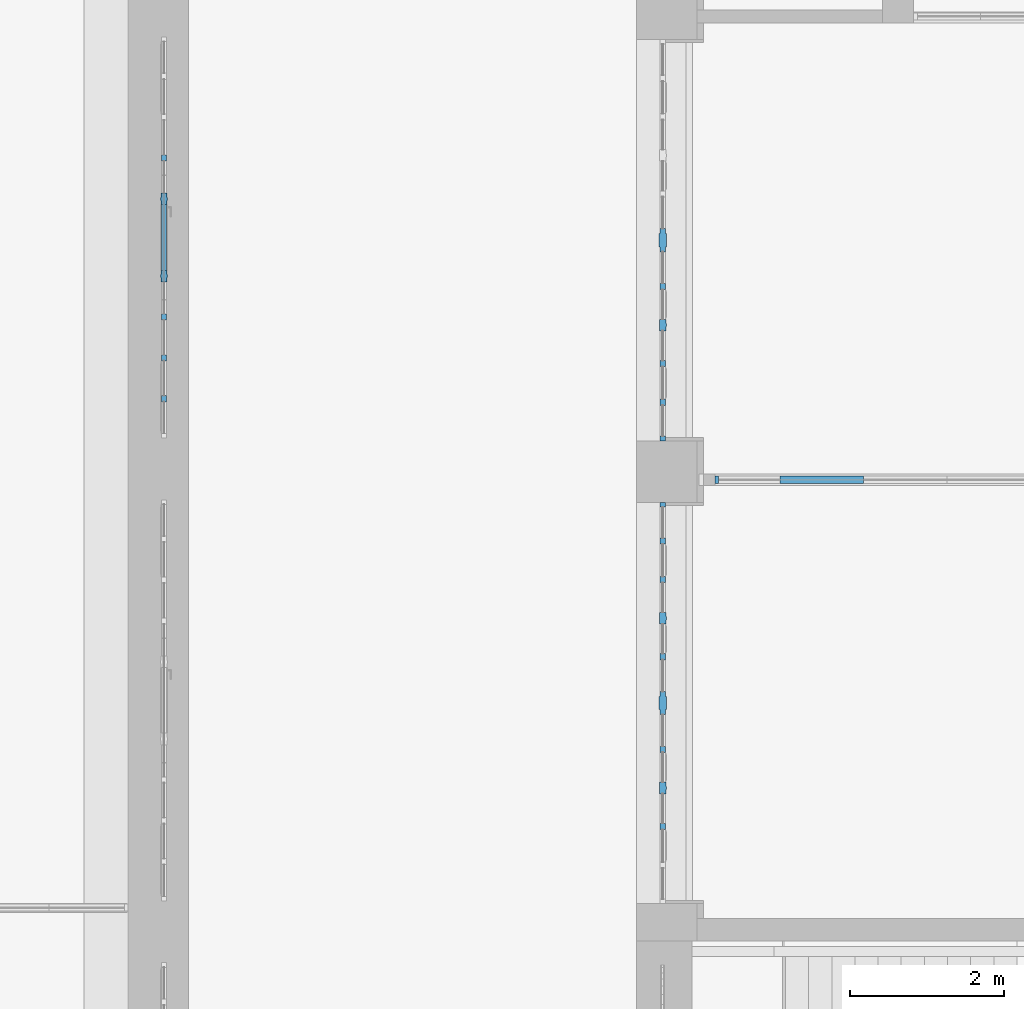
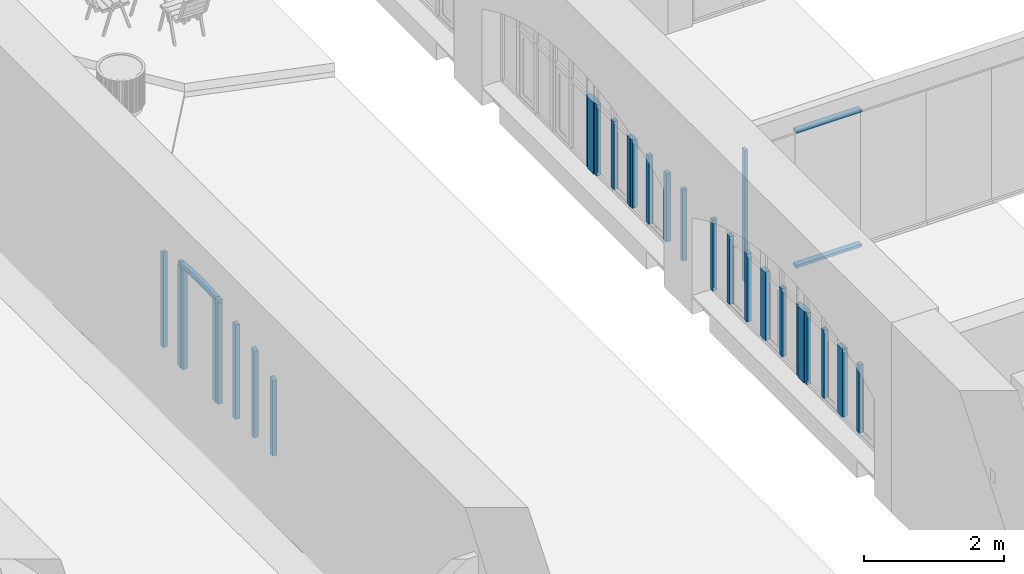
# One storey, part 11 of 88: 26 members, 4 elements without a shape of their own.
"""IFC2X3 building model written with IfcOpenShell, lengths in millimetres."""

from ifc_helpers import new_model, entity, si_unit, converted_unit, derived_unit, direction, frame, frame_2d, origin, origin_2d_with_axis, place, context, subcontext, project, spatial, polyline, circle_curve, parameter, trimmed, segment, composite_curve, rectangle, outline, extrude, source, transform, mapped, material, type_object, type_shapes, element, aggregate, save


model = new_model("IFC2X3")

# Units and contexts
model_context = context("Model", 3, precision=0.01, world=origin(), true_north=direction((6.123031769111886e-17, 1.0)))
body_context = subcontext(model_context, "Body", "Model", "MODEL_VIEW")
ifc_project = project(units=[si_unit("LENGTHUNIT", "METRE", prefix="MILLI"), si_unit("AREAUNIT", "SQUARE_METRE"), si_unit("VOLUMEUNIT", "CUBIC_METRE"), converted_unit("PLANEANGLEUNIT", "DEGREE", entity("IfcPlaneAngleMeasure", 0.017453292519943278), si_unit("PLANEANGLEUNIT", "RADIAN"), dimensions=[0, 0, 0, 0, 0, 0, 0]), si_unit("MASSUNIT", "GRAM", prefix="KILO"), derived_unit("MASSDENSITYUNIT", [(si_unit("MASSUNIT", "GRAM", prefix="KILO"), 1), (si_unit("LENGTHUNIT", "METRE"), -3)]), derived_unit("IONCONCENTRATIONUNIT", [(si_unit("MASSUNIT", "GRAM", prefix="KILO"), 1), (si_unit("LENGTHUNIT", "METRE"), -3)]), derived_unit("MOMENTOFINERTIAUNIT", [(si_unit("LENGTHUNIT", "METRE"), 4)]), si_unit("TIMEUNIT", "SECOND"), si_unit("FREQUENCYUNIT", "HERTZ"), si_unit("THERMODYNAMICTEMPERATUREUNIT", "DEGREE_CELSIUS"), derived_unit("THERMALTRANSMITTANCEUNIT", [(si_unit("MASSUNIT", "GRAM", prefix="KILO"), 1), (si_unit("THERMODYNAMICTEMPERATUREUNIT", "KELVIN"), -1), (si_unit("TIMEUNIT", "SECOND"), -3)]), derived_unit("THERMALCONDUCTANCEUNIT", [(si_unit("MASSUNIT", "GRAM", prefix="KILO"), 1), (si_unit("THERMODYNAMICTEMPERATUREUNIT", "KELVIN"), -1), (si_unit("TIMEUNIT", "SECOND"), -3), (si_unit("LENGTHUNIT", "METRE"), 1)]), derived_unit("VOLUMETRICFLOWRATEUNIT", [(si_unit("LENGTHUNIT", "METRE", prefix="DECI"), 3), (si_unit("TIMEUNIT", "SECOND"), -1)]), derived_unit("MASSFLOWRATEUNIT", [(si_unit("MASSUNIT", "GRAM", prefix="KILO"), 1), (si_unit("TIMEUNIT", "SECOND"), -1)]), derived_unit("ROTATIONALFREQUENCYUNIT", [(si_unit("TIMEUNIT", "SECOND"), -1)]), si_unit("ELECTRICCURRENTUNIT", "AMPERE"), si_unit("ELECTRICVOLTAGEUNIT", "VOLT"), si_unit("POWERUNIT", "WATT"), si_unit("FORCEUNIT", "NEWTON", prefix="KILO"), si_unit("ILLUMINANCEUNIT", "LUX"), si_unit("LUMINOUSFLUXUNIT", "LUMEN"), si_unit("LUMINOUSINTENSITYUNIT", "CANDELA"), si_unit("ENERGYUNIT", "JOULE"), derived_unit("USERDEFINED", [(si_unit("MASSUNIT", "GRAM", prefix="KILO"), -1), (si_unit("LENGTHUNIT", "METRE"), -2), (si_unit("TIMEUNIT", "SECOND"), 3), (si_unit("LUMINOUSFLUXUNIT", "LUMEN"), 1)]), derived_unit("USERDEFINED", [(si_unit("MASSUNIT", "GRAM", prefix="KILO"), 1), (si_unit("TIMEUNIT", "SECOND"), -3), (si_unit("LENGTHUNIT", "METRE"), 3), (si_unit("ELECTRICCURRENTUNIT", "AMPERE"), -2)]), derived_unit("SOUNDPOWERUNIT", [(si_unit("MASSUNIT", "GRAM", prefix="KILO"), 1), (si_unit("TIMEUNIT", "SECOND"), -3), (si_unit("LENGTHUNIT", "METRE"), 2)]), derived_unit("SOUNDPRESSUREUNIT", [(si_unit("MASSUNIT", "GRAM", prefix="KILO"), 1), (si_unit("LENGTHUNIT", "METRE"), -1), (si_unit("TIMEUNIT", "SECOND"), -2)]), derived_unit("LINEARVELOCITYUNIT", [(si_unit("LENGTHUNIT", "METRE"), 1), (si_unit("TIMEUNIT", "SECOND"), -1)]), si_unit("PRESSUREUNIT", "PASCAL"), derived_unit("USERDEFINED", [(si_unit("MASSUNIT", "GRAM", prefix="KILO"), 1), (si_unit("LENGTHUNIT", "METRE"), -2), (si_unit("TIMEUNIT", "SECOND"), -2)]), derived_unit("LINEARFORCEUNIT", [(si_unit("MASSUNIT", "GRAM", prefix="KILO"), 1), (si_unit("TIMEUNIT", "SECOND"), -2)]), derived_unit("PLANARFORCEUNIT", [(si_unit("MASSUNIT", "GRAM", prefix="KILO"), 1), (si_unit("LENGTHUNIT", "METRE"), -1), (si_unit("TIMEUNIT", "SECOND"), -2)]), derived_unit("SPECIFICHEATCAPACITYUNIT", [(si_unit("THERMODYNAMICTEMPERATUREUNIT", "KELVIN"), -1), (si_unit("LENGTHUNIT", "METRE"), 2), (si_unit("TIMEUNIT", "SECOND"), -2)]), derived_unit("HEATFLUXDENSITYUNIT", [(si_unit("MASSUNIT", "GRAM", prefix="KILO"), 1), (si_unit("TIMEUNIT", "SECOND"), -3)]), derived_unit("HEATINGVALUEUNIT", [(si_unit("LENGTHUNIT", "METRE"), 2), (si_unit("TIMEUNIT", "SECOND"), -2)]), derived_unit("VAPORPERMEABILITYUNIT", [(si_unit("LENGTHUNIT", "METRE"), -1), (si_unit("TIMEUNIT", "SECOND"), 1)]), derived_unit("DYNAMICVISCOSITYUNIT", [(si_unit("MASSUNIT", "GRAM", prefix="KILO"), 1), (si_unit("TIMEUNIT", "SECOND"), -1), (si_unit("LENGTHUNIT", "METRE"), -1)]), derived_unit("THERMALEXPANSIONCOEFFICIENTUNIT", [(si_unit("THERMODYNAMICTEMPERATUREUNIT", "KELVIN"), -1)]), derived_unit("MODULUSOFELASTICITYUNIT", [(si_unit("MASSUNIT", "GRAM", prefix="KILO"), 1), (si_unit("LENGTHUNIT", "METRE"), -1), (si_unit("TIMEUNIT", "SECOND"), -2)]), derived_unit("ISOTHERMALMOISTURECAPACITYUNIT", [(si_unit("MASSUNIT", "GRAM", prefix="KILO"), -1), (si_unit("LENGTHUNIT", "METRE"), 3)]), derived_unit("MOISTUREDIFFUSIVITYUNIT", [(si_unit("TIMEUNIT", "SECOND"), -1), (si_unit("LENGTHUNIT", "METRE"), 2)]), derived_unit("MASSPERLENGTHUNIT", [(si_unit("MASSUNIT", "GRAM", prefix="KILO"), 1), (si_unit("LENGTHUNIT", "METRE"), -1)]), derived_unit("THERMALRESISTANCEUNIT", [(si_unit("MASSUNIT", "GRAM", prefix="KILO"), -1), (si_unit("TIMEUNIT", "SECOND"), 3), (si_unit("THERMODYNAMICTEMPERATUREUNIT", "KELVIN"), 1)]), derived_unit("ACCELERATIONUNIT", [(si_unit("LENGTHUNIT", "METRE"), 1), (si_unit("TIMEUNIT", "SECOND"), -2)]), derived_unit("ANGULARVELOCITYUNIT", [(si_unit("TIMEUNIT", "SECOND"), -1), (si_unit("PLANEANGLEUNIT", "RADIAN"), 1)]), derived_unit("LINEARSTIFFNESSUNIT", [(si_unit("MASSUNIT", "GRAM", prefix="KILO"), 1), (si_unit("TIMEUNIT", "SECOND"), -2)]), derived_unit("WARPINGCONSTANTUNIT", [(si_unit("LENGTHUNIT", "METRE"), 6)]), derived_unit("LINEARMOMENTUNIT", [(si_unit("MASSUNIT", "GRAM", prefix="KILO"), 1), (si_unit("LENGTHUNIT", "METRE"), 1), (si_unit("TIMEUNIT", "SECOND"), -2)]), derived_unit("TORQUEUNIT", [(si_unit("MASSUNIT", "GRAM", prefix="KILO"), 1), (si_unit("LENGTHUNIT", "METRE"), 2), (si_unit("TIMEUNIT", "SECOND"), -2)])], contexts=[model_context])

# Site, building, storey
site_placement = place(None, origin())
site = spatial("IfcSite", under=ifc_project, at=site_placement, Name="Default", CompositionType="ELEMENT")
building_placement = place(site_placement, origin())
building = spatial("IfcBuilding", under=site, at=building_placement, Name="Eesti Rahvusraamatukogu hoone renoveerimise projekteerimistööd", CompositionType="ELEMENT")
storey_placement = place(building_placement, origin())
storey = spatial("IfcBuildingStorey", under=building, at=storey_placement, Name="1. korrus", CompositionType="ELEMENT", Elevation=0.0)

# Curtain wall, member
curtain_wall_type_1 = type_object("IfcCurtainWallType", Name="Curtain Wall:VLS Klaasvahesein profiilita 38db", PredefinedType="NOTDEFINED")
curtain_wall_1_placement = place(storey_placement, origin())
curtain_wall_1 = element("IfcCurtainWall", 1, at=curtain_wall_1_placement, inside=storey, type_object=curtain_wall_type_1, Name="Curtain Wall:VLS Klaasvahesein profiilita 38db", ObjectType="Curtain Wall:VLS Klaasvahesein profiilita 38db")
ifc_material_1 = material(Name="Aluminum")
member_type_1 = type_object("IfcMemberType", Name="Rectangular Mullion:50mm x 92mm", PredefinedType="MULLION", material=ifc_material_1)
shared_shape_1 = source(origin(), body_context, "Body", "SweptSolid", [
    extrude(rectangle(XDim=50.0, YDim=92.0, at=origin_2d_with_axis()), frame((-25.0, 0.0, -2300.0), z_axis=(0.0, 0.0, 1.0), x_axis=(-1.0, 0.0, 0.0)), (0.0, 0.0, 1.0), 2300.0),
])
type_shapes(member_type_1, [shared_shape_1])
member_1_placement = place(curtain_wall_1_placement, frame((-35765.5000000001, 36284.74185018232, 4000.0), z_axis=(0.0, 0.0, 1.0), x_axis=(-1.0, 0.0, 0.0)))
member_1 = element("IfcMember", 2, at=member_1_placement, type_object=member_type_1, material=ifc_material_1, Name="Rectangular Mullion:50mm x 92mm", ObjectType="Rectangular Mullion:50mm x 92mm", context=body_context, shape_type="MappedRepresentation", body=[
    mapped(shared_shape_1, transform((0.0, 0.0, 0.0), scale=1.0)),
])

# Curtain wall, members
curtain_wall_type_2 = type_object("IfcCurtainWallType", Name="Curtain Wall:Ak-02", PredefinedType="NOTDEFINED")
curtain_wall_2_placement = place(storey_placement, origin())
curtain_wall_2 = element("IfcCurtainWall", 3, at=curtain_wall_2_placement, inside=storey, type_object=curtain_wall_type_2, Name="Curtain Wall:Ak-02", ObjectType="Curtain Wall:Ak-02")
ifc_material_2 = material(Name="LUMION_dark steel window frames")
member_type_2 = type_object("IfcMemberType", Name="Rectangular Mullion:NEW 80x70mm", PredefinedType="MULLION", material=ifc_material_2)
shared_shape_2 = source(origin(), body_context, "Body", "SweptSolid", [
    extrude(rectangle(XDim=80.0, YDim=70.0, at=frame_2d((0.0, 3.552713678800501e-15), x_axis=(1.0, 0.0))), frame((0.0, 0.0, -1190.0), z_axis=(0.0, 0.0, 1.0), x_axis=(-1.0, 0.0, 0.0)), (0.0, 0.0, 1.0), 1189.9999999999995),
])
type_shapes(member_type_2, [shared_shape_2])
member_2_placement = place(curtain_wall_2_placement, frame((-36440.0, 38790.0, 2040.0), z_axis=(0.0, 0.0, -1.0), x_axis=(0.0, -1.0, 0.0)))
member_2 = element("IfcMember", 4, at=member_2_placement, type_object=member_type_2, material=ifc_material_2, Name="Rectangular Mullion:NEW 80x70mm", ObjectType="Rectangular Mullion:NEW 80x70mm", context=body_context, shape_type="MappedRepresentation", body=[
    mapped(shared_shape_2, transform((0.0, 0.0, 0.0), scale=1.0)),
])
member_3_placement = place(curtain_wall_2_placement, frame((-36440.0, 37790.0, 2040.0), z_axis=(0.0, 0.0, -1.0), x_axis=(0.0, -1.0, 0.0)))
member_3 = element("IfcMember", 5, at=member_3_placement, type_object=member_type_2, material=ifc_material_2, Name="Rectangular Mullion:NEW 80x70mm", ObjectType="Rectangular Mullion:NEW 80x70mm", context=body_context, shape_type="MappedRepresentation", body=[
    mapped(shared_shape_2, transform((0.0, 0.0, 0.0), scale=1.0)),
])
member_4_placement = place(curtain_wall_2_placement, frame((-36440.0, 37290.0, 2040.0), z_axis=(0.0, 0.0, -1.0), x_axis=(0.0, -1.0, 0.0)))
member_4 = element("IfcMember", 6, at=member_4_placement, type_object=member_type_2, material=ifc_material_2, Name="Rectangular Mullion:NEW 80x70mm", ObjectType="Rectangular Mullion:NEW 80x70mm", context=body_context, shape_type="MappedRepresentation", body=[
    mapped(shared_shape_2, transform((0.0, 0.0, 0.0), scale=1.0)),
])

curtain_wall_3_placement = place(storey_placement, origin())
curtain_wall_3 = element("IfcCurtainWall", 7, at=curtain_wall_3_placement, inside=storey, type_object=curtain_wall_type_2, Name="Curtain Wall:Ak-02", ObjectType="Curtain Wall:Ak-02")
member_5_placement = place(curtain_wall_3_placement, frame((-36440.0, 35490.0, 2040.0), z_axis=(0.0, 0.0, -1.0), x_axis=(0.0, -1.0, 0.0)))
member_5 = element("IfcMember", 8, at=member_5_placement, type_object=member_type_2, material=ifc_material_2, Name="Rectangular Mullion:NEW 80x70mm", ObjectType="Rectangular Mullion:NEW 80x70mm", context=body_context, shape_type="MappedRepresentation", body=[
    mapped(shared_shape_2, transform((0.0, 0.0, 0.0), scale=1.0)),
])
member_6_placement = place(curtain_wall_3_placement, frame((-36440.0, 34990.0, 2040.0), z_axis=(0.0, 0.0, -1.0), x_axis=(0.0, -1.0, 0.0)))
member_6 = element("IfcMember", 9, at=member_6_placement, type_object=member_type_2, material=ifc_material_2, Name="Rectangular Mullion:NEW 80x70mm", ObjectType="Rectangular Mullion:NEW 80x70mm", context=body_context, shape_type="MappedRepresentation", body=[
    mapped(shared_shape_2, transform((0.0, 0.0, 0.0), scale=1.0)),
])
member_7_placement = place(curtain_wall_3_placement, frame((-36440.0, 33990.0, 2040.0), z_axis=(0.0, 0.0, -1.0), x_axis=(0.0, -1.0, 0.0)))
member_7 = element("IfcMember", 10, at=member_7_placement, type_object=member_type_2, material=ifc_material_2, Name="Rectangular Mullion:NEW 80x70mm", ObjectType="Rectangular Mullion:NEW 80x70mm", context=body_context, shape_type="MappedRepresentation", body=[
    mapped(shared_shape_2, transform((0.0, 0.0, 0.0), scale=1.0)),
])
member_8_placement = place(curtain_wall_3_placement, frame((-36440.0, 32790.0, 2040.0), z_axis=(0.0, 0.0, -1.0), x_axis=(0.0, -1.0, 0.0)))
member_8 = element("IfcMember", 11, at=member_8_placement, type_object=member_type_2, material=ifc_material_2, Name="Rectangular Mullion:NEW 80x70mm", ObjectType="Rectangular Mullion:NEW 80x70mm", context=body_context, shape_type="MappedRepresentation", body=[
    mapped(shared_shape_2, transform((0.0, 0.0, 0.0), scale=1.0)),
])
member_9_placement = place(curtain_wall_3_placement, frame((-36440.0, 31790.0, 2040.0), z_axis=(0.0, 0.0, -1.0), x_axis=(0.0, -1.0, 0.0)))
member_9 = element("IfcMember", 12, at=member_9_placement, type_object=member_type_2, material=ifc_material_2, Name="Rectangular Mullion:NEW 80x70mm", ObjectType="Rectangular Mullion:NEW 80x70mm", context=body_context, shape_type="MappedRepresentation", body=[
    mapped(shared_shape_2, transform((0.0, 0.0, 0.0), scale=1.0)),
])

# Member
member_type_3 = type_object("IfcMemberType", Name="Rectangular Mullion:NEW 150x90mm", PredefinedType="MULLION", material=ifc_material_2)
shared_shape_3 = source(origin(), body_context, "Body", "SweptSolid", [
    extrude(outline(polyline([(20.0, -40.0), (75.0, -40.0), (75.0, 40.0), (20.0, 40.0), (20.0, 45.0), (-20.0, 45.0), (-20.0, 40.0), (-75.0, 40.0), (-75.0, -40.0), (-20.0, -40.0), (-20.0, -45.0), (20.0, -45.0), (20.0, -40.0)])), frame((0.0, 0.0, -1190.0), z_axis=(0.0, 0.0, 1.0), x_axis=(-1.0, 0.0, 0.0)), (0.0, 0.0, 1.0), 1189.9999999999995),
])
type_shapes(member_type_3, [shared_shape_3])
member_10_placement = place(curtain_wall_2_placement, frame((-36440.0, 38290.0, 2040.0), z_axis=(0.0, 0.0, -1.0), x_axis=(0.0, -1.0, 0.0)))
member_10 = element("IfcMember", 13, at=member_10_placement, type_object=member_type_3, material=ifc_material_2, Name="Rectangular Mullion:NEW 150x90mm", ObjectType="Rectangular Mullion:NEW 150x90mm", context=body_context, shape_type="MappedRepresentation", body=[
    mapped(shared_shape_3, transform((0.0, 0.0, 0.0), scale=1.0)),
])

member_11_placement = place(curtain_wall_3_placement, frame((-36440.0, 34490.0, 2040.0), z_axis=(0.0, 0.0, -1.0), x_axis=(0.0, -1.0, 0.0)))
member_11 = element("IfcMember", 14, at=member_11_placement, type_object=member_type_3, material=ifc_material_2, Name="Rectangular Mullion:NEW 150x90mm", ObjectType="Rectangular Mullion:NEW 150x90mm", context=body_context, shape_type="MappedRepresentation", body=[
    mapped(shared_shape_3, transform((0.0, 0.0, 0.0), scale=1.0)),
])

member_12_placement = place(curtain_wall_3_placement, frame((-36440.0, 32290.0, 2040.0), z_axis=(0.0, 0.0, -1.0), x_axis=(0.0, -1.0, 0.0)))
member_12 = element("IfcMember", 15, at=member_12_placement, type_object=member_type_3, material=ifc_material_2, Name="Rectangular Mullion:NEW 150x90mm", ObjectType="Rectangular Mullion:NEW 150x90mm", context=body_context, shape_type="MappedRepresentation", body=[
    mapped(shared_shape_3, transform((0.0, 0.0, 0.0), scale=1.0)),
])

member_type_4 = type_object("IfcMemberType", Name="Rectangular Mullion:NEW 300x100mm", PredefinedType="MULLION", material=ifc_material_2)
shared_shape_4 = source(origin(), body_context, "Body", "SweptSolid", [
    extrude(outline(polyline([(85.0, -35.0), (150.0, -35.0), (150.0, 35.0), (85.0, 35.0), (85.0, 50.0), (-85.0, 50.0), (-85.0, 35.0), (-150.0, 35.0), (-150.0, -35.0), (-85.0, -35.0), (-85.0, -50.0), (85.0, -50.0), (85.0, -35.0)])), frame((0.0, 0.0, -1250.0), z_axis=(0.0, 0.0, 1.0), x_axis=(-1.0, 0.0, 0.0)), (0.0, 0.0, 1.0), 1249.9999999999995),
])
type_shapes(member_type_4, [shared_shape_4])
member_13_placement = place(curtain_wall_2_placement, frame((-36440.0, 39390.0, 1980.0), z_axis=(0.0, 0.0, -1.0), x_axis=(0.0, -1.0, 0.0)))
member_13 = element("IfcMember", 16, at=member_13_placement, type_object=member_type_4, material=ifc_material_2, Name="Rectangular Mullion:NEW 300x100mm", ObjectType="Rectangular Mullion:NEW 300x100mm", context=body_context, shape_type="MappedRepresentation", body=[
    mapped(shared_shape_4, transform((0.0, 0.0, 0.0), scale=1.0)),
])

member_14_placement = place(curtain_wall_3_placement, frame((-36440.0, 33390.0, 1980.0), z_axis=(0.0, 0.0, -1.0), x_axis=(0.0, -1.0, 0.0)))
member_14 = element("IfcMember", 17, at=member_14_placement, type_object=member_type_4, material=ifc_material_2, Name="Rectangular Mullion:NEW 300x100mm", ObjectType="Rectangular Mullion:NEW 300x100mm", context=body_context, shape_type="MappedRepresentation", body=[
    mapped(shared_shape_4, transform((0.0, 0.0, 0.0), scale=1.0)),
])

member_type_5 = type_object("IfcMemberType", Name="Rectangular Mullion:NEW 60x70mm", PredefinedType="MULLION", material=ifc_material_2)
shared_shape_5 = source(origin(), body_context, "Body", "SweptSolid", [
    extrude(rectangle(XDim=60.0, YDim=70.0, at=frame_2d((0.0, 3.552713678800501e-15), x_axis=(1.0, 0.0))), frame((-30.0, 0.0, -1250.0), z_axis=(0.0, 0.0, 1.0), x_axis=(-1.0, 0.0, 0.0)), (0.0, 0.0, 1.0), 1249.9999999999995),
])
type_shapes(member_type_5, [shared_shape_5])
member_15_placement = place(curtain_wall_2_placement, frame((-36440.0, 36790.0, 1980.0), z_axis=(0.0, 0.0, -1.0), x_axis=(0.0, -1.0, 0.0)))
member_15 = element("IfcMember", 18, at=member_15_placement, type_object=member_type_5, material=ifc_material_2, Name="Rectangular Mullion:NEW 60x70mm", ObjectType="Rectangular Mullion:NEW 60x70mm", context=body_context, shape_type="MappedRepresentation", body=[
    mapped(shared_shape_5, transform((0.0, 0.0, 0.0), scale=1.0)),
])

aggregate(curtain_wall_2, [member_13, member_2, member_10, member_3, member_4, member_15])

member_type_6 = type_object("IfcMemberType", Name="Rectangular Mullion:NEW 60x70mm", PredefinedType="MULLION", material=ifc_material_2)
shared_shape_6 = source(origin(), body_context, "Body", "SweptSolid", [
    extrude(rectangle(XDim=60.0, YDim=70.0, at=frame_2d((0.0, 3.552713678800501e-15), x_axis=(1.0, 0.0))), frame((-30.0, 0.0, -1250.0), z_axis=(0.0, 0.0, 1.0), x_axis=(-1.0, 0.0, 0.0)), (0.0, 0.0, 1.0), 1249.9999999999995),
])
type_shapes(member_type_6, [shared_shape_6])
member_16_placement = place(curtain_wall_3_placement, frame((-36440.0, 35990.0, 3230.0), z_axis=(0.0, 0.0, 1.0), x_axis=(0.0, 1.0, 0.0)))
member_16 = element("IfcMember", 19, at=member_16_placement, type_object=member_type_6, material=ifc_material_2, Name="Rectangular Mullion:NEW 60x70mm", ObjectType="Rectangular Mullion:NEW 60x70mm", context=body_context, shape_type="MappedRepresentation", body=[
    mapped(shared_shape_6, transform((0.0, 0.0, 0.0), scale=1.0)),
])

aggregate(curtain_wall_3, [member_5, member_6, member_11, member_7, member_14, member_8, member_12, member_9, member_16])

# Curtain wall, members
curtain_wall_type_3 = type_object("IfcCurtainWallType", Name="Curtain Wall:Ak-05", PredefinedType="NOTDEFINED")
curtain_wall_4_placement = place(storey_placement, origin())
curtain_wall_4 = element("IfcCurtainWall", 20, at=curtain_wall_4_placement, inside=storey, type_object=curtain_wall_type_3, Name="Curtain Wall:Ak-05", ObjectType="Curtain Wall:Ak-05")
member_type_7 = type_object("IfcMemberType", Name="Rectangular Mullion:NEW 60x70mm", PredefinedType="MULLION", material=ifc_material_2)
shared_shape_7 = source(origin(), body_context, "Body", "SweptSolid", [
    extrude(outline(composite_curve([segment(polyline([(-75.01710683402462, -495.2424237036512), (-15.017106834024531, -495.2424237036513)]), True, "CONTINUOUS"), segment(trimmed(circle_curve(frame_2d((5448.26345993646, -495.24242370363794), x_axis=(-0.9836101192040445, 0.1803084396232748)), 5463.280566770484), [parameter(3.5622212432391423e-13)], [parameter(10.387726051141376)], True, "PARAMETER"), False, "CONTINUOUS"), segment(polyline([(74.52541041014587, 489.83317051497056), (15.508803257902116, 500.65167689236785)]), True, "CONTINUOUS"), segment(trimmed(circle_curve(frame_2d((5448.26345993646, -495.24242370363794), x_axis=(-0.9836101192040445, 0.1803084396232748)), 5523.280566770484), [parameter(3.5622212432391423e-13)], [parameter(10.387726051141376)], True, "PARAMETER"), True, "CONTINUOUS")], self_intersect=False)), frame((-75.01710683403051, -35.0, -495.2424237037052), z_axis=(0.0, 1.0, 0.0), x_axis=(-0.9836101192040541, 0.0, 0.18030843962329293)), (0.0, 0.0, 1.0), 69.99999999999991),
])
type_shapes(member_type_7, [shared_shape_7])
member_17_placement = place(curtain_wall_4_placement, frame((-42905.0, 38925.0, 2327.3219656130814), z_axis=(0.0, -0.9958941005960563, -0.0905259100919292), x_axis=(0.0, -0.0905259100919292, 0.9958941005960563)))
member_17 = element("IfcMember", 21, at=member_17_placement, type_object=member_type_7, material=ifc_material_2, Name="Rectangular Mullion:NEW 60x70mm", ObjectType="Rectangular Mullion:NEW 60x70mm", context=body_context, shape_type="MappedRepresentation", body=[
    mapped(shared_shape_7, transform((0.0, 0.0, 0.0), scale=1.0)),
])
member_type_8 = type_object("IfcMemberType", Name="Rectangular Mullion:NEW 150x90mm", PredefinedType="MULLION", material=ifc_material_2)
shared_shape_8 = source(origin(), body_context, "Body", "SweptSolid", [
    extrude(outline(polyline([(40.0, -20.0), (45.0, -20.0), (45.0, 20.0), (40.0, 20.0), (40.0, 75.0), (-40.0, 75.0), (-40.0, 20.0), (-45.0, 20.0), (-45.0, -20.0), (-40.0, -20.0), (-40.0, -75.0), (40.0, -75.0), (40.0, -20.0)])), frame((0.0, 0.0, -1760.0), z_axis=(0.0, 0.0, 1.0), x_axis=(0.0, -1.0, 0.0)), (0.0, 0.0, 1.0), 1759.9999999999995),
])
type_shapes(member_type_8, [shared_shape_8])
member_18_placement = place(curtain_wall_4_placement, frame((-42905.0, 39925.0, 500.0), z_axis=(0.0, 0.0, -1.0), x_axis=(0.0, -1.0, 0.0)))
member_18 = element("IfcMember", 22, at=member_18_placement, type_object=member_type_8, material=ifc_material_2, Name="Rectangular Mullion:NEW 150x90mm", ObjectType="Rectangular Mullion:NEW 150x90mm", context=body_context, shape_type="MappedRepresentation", body=[
    mapped(shared_shape_8, transform((0.0, 0.0, 0.0), scale=1.0)),
])
member_19_placement = place(curtain_wall_4_placement, frame((-42905.0, 38925.0, 500.0), z_axis=(0.0, 0.0, -1.0), x_axis=(0.0, -1.0, 0.0)))
member_19 = element("IfcMember", 23, at=member_19_placement, type_object=member_type_8, material=ifc_material_2, Name="Rectangular Mullion:NEW 150x90mm", ObjectType="Rectangular Mullion:NEW 150x90mm", context=body_context, shape_type="MappedRepresentation", body=[
    mapped(shared_shape_8, transform((0.0, 0.0, 0.0), scale=1.0)),
])
member_type_9 = type_object("IfcMemberType", Name="Rectangular Mullion:NEW 60x70mm", PredefinedType="MULLION", material=ifc_material_2)
shared_shape_9 = source(origin(), body_context, "Body", "SweptSolid", [
    extrude(rectangle(XDim=60.0, YDim=70.0, at=frame_2d((0.0, -3.552713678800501e-15), x_axis=(1.0, 0.0))), frame((0.0, 0.0, -1150.0), z_axis=(0.0, 0.0, 1.0), x_axis=(-1.0, 0.0, 0.0)), (0.0, 0.0, 1.0), 1149.9999999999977),
])
type_shapes(member_type_9, [shared_shape_9])
member_20_placement = place(curtain_wall_4_placement, frame((-42905.0, 38850.0, 2290.0), z_axis=(0.0, -1.0, 0.0), x_axis=(0.0, 0.0, 1.0)))
member_20 = element("IfcMember", 24, at=member_20_placement, type_object=member_type_9, material=ifc_material_2, Name="Rectangular Mullion:NEW 60x70mm", ObjectType="Rectangular Mullion:NEW 60x70mm", context=body_context, shape_type="MappedRepresentation", body=[
    mapped(shared_shape_9, transform((0.0, 0.0, 0.0), scale=1.0)),
])
member_type_10 = type_object("IfcMemberType", Name="Rectangular Mullion:NEW 80x70mm", PredefinedType="MULLION", material=ifc_material_2)
shared_shape_10 = source(origin(), body_context, "Body", "SweptSolid", [
    extrude(outline(composite_curve([segment(polyline([(-802.4490834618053, -44.54077965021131), (515.2279674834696, -44.54077965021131)]), True, "CONTINUOUS"), segment(trimmed(circle_curve(frame_2d((-4515.729650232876, 2085.4592203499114), x_axis=(0.8822747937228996, -0.4707347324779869)), 5463.280566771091), [parameter(5.135238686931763)], [parameter(5.847495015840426)], True, "PARAMETER"), True, "CONTINUOUS"), segment(trimmed(circle_curve(frame_2d((-4515.729650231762, 2085.4592203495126), x_axis=(0.9256428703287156, -0.3783983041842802)), 5463.280566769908), [parameter(0.0)], [parameter(0.1958264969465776)], True, "PARAMETER"), True, "CONTINUOUS"), segment(polyline([(548.3531444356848, 35.45922034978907), (-802.4490834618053, 35.45922034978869)]), True, "CONTINUOUS"), segment(polyline([(-802.4490834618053, 35.45922034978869), (-802.4490834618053, -44.54077965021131)]), True, "CONTINUOUS")], self_intersect=False)), frame((-4.540779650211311, -35.0, -802.4490834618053), z_axis=(0.0, 1.0, 0.0), x_axis=(0.0, 0.0, -1.0)), (0.0, 0.0, 1.0), 69.99999999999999),
])
type_shapes(member_type_10, [shared_shape_10])
member_21_placement = place(curtain_wall_4_placement, frame((-42905.0, 37335.0, 540.0), z_axis=(0.0, 0.0, -1.0), x_axis=(0.0, -1.0, 0.0)))
member_21 = element("IfcMember", 25, at=member_21_placement, type_object=member_type_10, material=ifc_material_2, Name="Rectangular Mullion:NEW 80x70mm", ObjectType="Rectangular Mullion:NEW 80x70mm", context=body_context, shape_type="MappedRepresentation", body=[
    mapped(shared_shape_10, transform((0.0, 0.0, 0.0), scale=1.0)),
])
member_type_11 = type_object("IfcMemberType", Name="Rectangular Mullion:NEW 80x70mm", PredefinedType="MULLION", material=ifc_material_2)
shared_shape_11 = source(origin(), body_context, "Body", "SweptSolid", [
    extrude(outline(composite_curve([segment(polyline([(-914.4623251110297, -43.389290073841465), (595.9947117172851, -43.389290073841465)]), True, "CONTINUOUS"), segment(trimmed(circle_curve(frame_2d((-4627.7428918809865, 1556.6107099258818), x_axis=(0.9256428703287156, -0.37839830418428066)), 5463.280566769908), [parameter(5.204987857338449)], [parameter(5.828569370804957)], True, "PARAMETER"), True, "CONTINUOUS"), segment(trimmed(circle_curve(frame_2d((-4627.74289188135, 1556.6107099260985), x_axis=(0.9592847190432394, -0.28244083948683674)), 5463.280566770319), [parameter(0.0)], [parameter(0.25187197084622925)], True, "PARAMETER"), True, "CONTINUOUS"), segment(polyline([(619.8312668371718, 36.61070992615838), (-914.4623251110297, 36.610709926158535)]), True, "CONTINUOUS"), segment(polyline([(-914.4623251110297, 36.610709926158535), (-914.4623251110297, -43.389290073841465)]), True, "CONTINUOUS")], self_intersect=False)), frame((-3.389290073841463, -35.0, -914.4623251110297), z_axis=(0.0, 1.0, 0.0), x_axis=(0.0, 0.0, -1.0)), (0.0, 0.0, 1.0), 69.99999999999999),
])
type_shapes(member_type_11, [shared_shape_11])
member_22_placement = place(curtain_wall_4_placement, frame((-42905.0, 37865.0, 540.0), z_axis=(0.0, 0.0, -1.0), x_axis=(0.0, -1.0, 0.0)))
member_22 = element("IfcMember", 26, at=member_22_placement, type_object=member_type_11, material=ifc_material_2, Name="Rectangular Mullion:NEW 80x70mm", ObjectType="Rectangular Mullion:NEW 80x70mm", context=body_context, shape_type="MappedRepresentation", body=[
    mapped(shared_shape_11, transform((0.0, 0.0, 0.0), scale=1.0)),
])
member_type_12 = type_object("IfcMemberType", Name="Rectangular Mullion:NEW 80x70mm", PredefinedType="MULLION", material=ifc_material_2)
shared_shape_12 = source(origin(), body_context, "Body", "SweptSolid", [
    extrude(outline(composite_curve([segment(polyline([(-991.582057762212, -42.23780049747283), (652.61201854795, -42.23780049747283)]), True, "CONTINUOUS"), segment(trimmed(circle_curve(frame_2d((-4704.862624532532, 1027.7621995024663), x_axis=(0.9592847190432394, -0.28244083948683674)), 5463.280566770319), [parameter(5.111376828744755)], [parameter(5.658307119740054)], True, "PARAMETER"), True, "CONTINUOUS"), segment(trimmed(circle_curve(frame_2d((-4704.862624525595, 1027.7621995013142), x_axis=(0.9824581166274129, -0.18648337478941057)), 5463.2805667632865), [parameter(0.0)], [parameter(0.3073932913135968)], True, "PARAMETER"), True, "CONTINUOUS"), segment(polyline([(667.9703852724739, 37.76219950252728), (-991.582057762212, 37.76219950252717)]), True, "CONTINUOUS"), segment(polyline([(-991.582057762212, 37.76219950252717), (-991.582057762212, -42.23780049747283)]), True, "CONTINUOUS")], self_intersect=False)), frame((-2.237800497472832, -35.0, -991.582057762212), z_axis=(0.0, 1.0, 0.0), x_axis=(0.0, 0.0, -1.0)), (0.0, 0.0, 1.0), 70.00000000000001),
])
type_shapes(member_type_12, [shared_shape_12])
member_23_placement = place(curtain_wall_4_placement, frame((-42905.0, 38395.0, 540.0), z_axis=(0.0, 0.0, -1.0), x_axis=(0.0, -1.0, 0.0)))
member_23 = element("IfcMember", 27, at=member_23_placement, type_object=member_type_12, material=ifc_material_2, Name="Rectangular Mullion:NEW 80x70mm", ObjectType="Rectangular Mullion:NEW 80x70mm", context=body_context, shape_type="MappedRepresentation", body=[
    mapped(shared_shape_12, transform((0.0, 0.0, 0.0), scale=1.0)),
])
member_type_13 = type_object("IfcMemberType", Name="Rectangular Mullion:NEW 80x70mm", PredefinedType="MULLION", material=ifc_material_2)
shared_shape_13 = source(origin(), body_context, "Body", "SweptSolid", [
    extrude(outline(composite_curve([segment(polyline([(-991.5820577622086, -37.76219950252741), (667.9703852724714, -37.76219950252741)]), True, "CONTINUOUS"), segment(trimmed(circle_curve(frame_2d((-4704.862624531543, -1027.7621995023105), x_axis=(0.9891368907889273, 0.14699731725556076)), 5463.280566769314), [parameter(1.9872788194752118)], [parameter(2.294672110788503)], True, "PARAMETER"), True, "CONTINUOUS"), segment(trimmed(circle_curve(frame_2d((-4704.862624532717, -1027.7621995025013), x_axis=(0.9824581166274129, 0.18648337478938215)), 5463.280566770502), [parameter(0.0)], [parameter(0.546930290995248)], True, "PARAMETER"), True, "CONTINUOUS"), segment(polyline([(652.6120185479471, 42.23780049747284), (-991.5820577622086, 42.23780049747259)]), True, "CONTINUOUS"), segment(polyline([(-991.5820577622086, 42.23780049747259), (-991.5820577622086, -37.76219950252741)]), True, "CONTINUOUS")], self_intersect=False)), frame((2.237800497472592, -35.0, -991.5820577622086), z_axis=(0.0, 1.0, 0.0), x_axis=(0.0, 0.0, -1.0)), (0.0, 0.0, 1.0), 69.99999999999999),
])
type_shapes(member_type_13, [shared_shape_13])
member_24_placement = place(curtain_wall_4_placement, frame((-42905.0, 40455.0, 540.0), z_axis=(0.0, 0.0, -1.0), x_axis=(0.0, -1.0, 0.0)))
member_24 = element("IfcMember", 28, at=member_24_placement, type_object=member_type_13, material=ifc_material_2, Name="Rectangular Mullion:NEW 80x70mm", ObjectType="Rectangular Mullion:NEW 80x70mm", context=body_context, shape_type="MappedRepresentation", body=[
    mapped(shared_shape_13, transform((0.0, 0.0, 0.0), scale=1.0)),
])
aggregate(curtain_wall_4, [member_17, member_18, member_19, member_20, member_21, member_22, member_23, member_24])

# Member
member_type_14 = type_object("IfcMemberType", Name="Rectangular Mullion:50mm x 92mm", PredefinedType="MULLION", material=ifc_material_1)
shared_shape_14 = source(origin(), body_context, "Body", "SweptSolid", [
    extrude(rectangle(XDim=50.0, YDim=92.0, at=frame_2d((0.0, 3.552713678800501e-15), x_axis=(1.0, 0.0))), frame((-25.0, 0.0, -1080.0), z_axis=(0.0, 0.0, 1.0), x_axis=(-1.0, 0.0, 0.0)), (0.0, 0.0, 1.0), 1080.0000000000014),
])
type_shapes(member_type_14, [shared_shape_14])
member_25_placement = place(curtain_wall_1_placement, frame((-34920.0, 36284.74185018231, 1650.0), z_axis=(-1.0, 0.0, 0.0), x_axis=(0.0, 0.0, -1.0)))
member_25 = element("IfcMember", 29, at=member_25_placement, type_object=member_type_14, material=ifc_material_1, Name="Rectangular Mullion:50mm x 92mm", ObjectType="Rectangular Mullion:50mm x 92mm", context=body_context, shape_type="MappedRepresentation", body=[
    mapped(shared_shape_14, transform((0.0, 0.0, 0.0), scale=1.0)),
])

member_type_15 = type_object("IfcMemberType", Name="Rectangular Mullion:50mm x 92mm", PredefinedType="MULLION", material=ifc_material_1)
shared_shape_15 = source(origin(), body_context, "Body", "SweptSolid", [
    extrude(rectangle(XDim=50.0, YDim=92.0, at=frame_2d((0.0, 3.552713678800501e-15), x_axis=(1.0, 0.0))), frame((-25.0, 0.0, -1080.0), z_axis=(0.0, 0.0, 1.0), x_axis=(-1.0, 0.0, 0.0)), (0.0, 0.0, 1.0), 1080.0000000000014),
])
type_shapes(member_type_15, [shared_shape_15])
member_26_placement = place(curtain_wall_1_placement, frame((-33840.0, 36284.741850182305, 4050.0), z_axis=(1.0, 0.0, 0.0), x_axis=(0.0, 0.0, 1.0)))
member_26 = element("IfcMember", 30, at=member_26_placement, type_object=member_type_15, material=ifc_material_1, Name="Rectangular Mullion:50mm x 92mm", ObjectType="Rectangular Mullion:50mm x 92mm", context=body_context, shape_type="MappedRepresentation", body=[
    mapped(shared_shape_15, transform((0.0, 0.0, 0.0), scale=1.0)),
])

aggregate(curtain_wall_1, [member_1, member_25, member_26])

save(model, "model.ifc")
